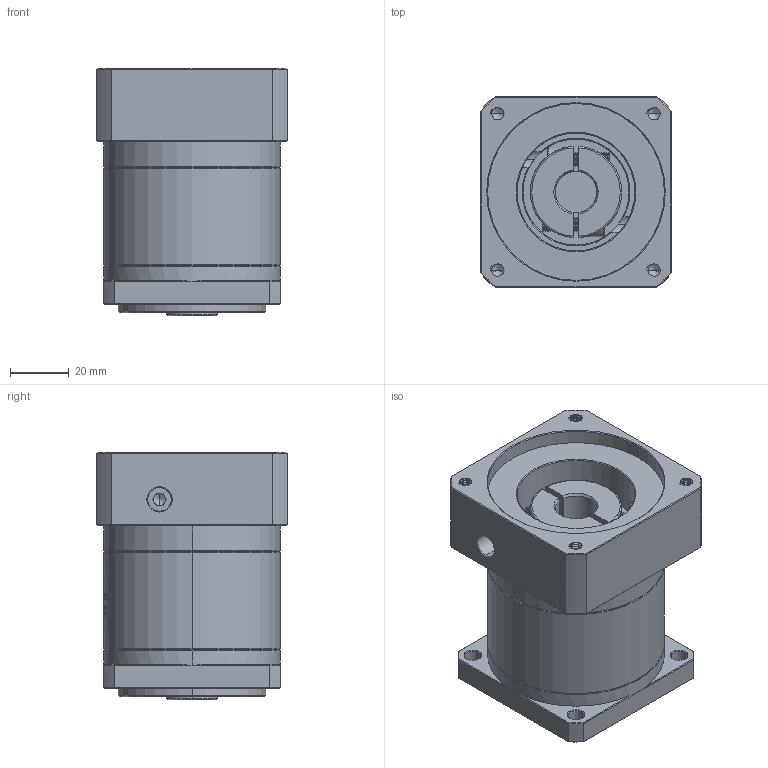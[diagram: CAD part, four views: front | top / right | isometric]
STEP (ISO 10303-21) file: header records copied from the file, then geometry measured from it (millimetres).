
FILE_DESCRIPTION (( 'STEP AP214' ), '1' );
FILE_NAME ('ZF60-K10-L1-14-60-75-M5.STEP', '2022-04-17T11:54:26', ( '' ), ( 'Microsoft' ), 'SwSTEP 2.0', 'SolidWorks 2016', '' );
FILE_SCHEMA (( 'AUTOMOTIVE_DESIGN' ));
Length unit declared in the file: millimetre
Products named in the file (1): ZF60-K10-L1-14-60-75-M5
Bounding box: 65 x 65 x 84 mm (x, y, z)
Volume: 226734.3 mm3; surface area: 45515.4 mm2
Topology: 6 solids, 6 shells, 1596 faces, 4313 edges, 2793 vertices
Faces by surface type: plane 742, cylinder 316, bspline 292, cone 228, torus 18
Entity records: 88181 total; most frequent: CARTESIAN_POINT 34008, ORIENTED_EDGE 8602, DIRECTION 6363, EDGE_CURVE 4301, VERTEX_POINT 2793, VECTOR 2221, LINE 2221, AXIS2_PLACEMENT_3D 2071
